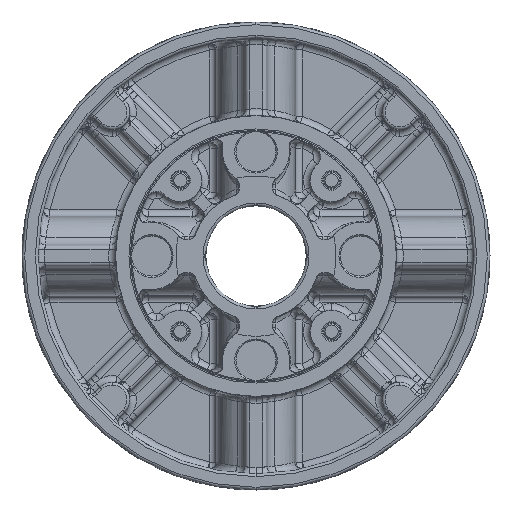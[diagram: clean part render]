
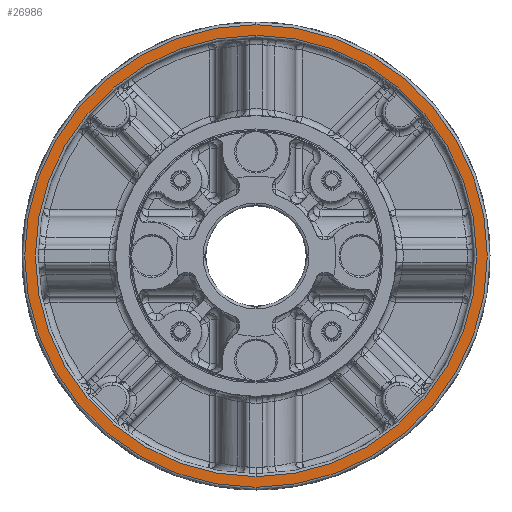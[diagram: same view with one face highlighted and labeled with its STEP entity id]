
A CAD part, left-side view. The second image highlights one B-rep face of the part: STEP entity #26986.
In plain terms, the highlighted planar face has unit normal (-1, 0, 0).
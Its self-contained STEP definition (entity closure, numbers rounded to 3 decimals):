
#247 = DIRECTION ( 'NONE',  ( 1., 0., 0. ) ) ;
#2159 = CARTESIAN_POINT ( 'NONE',  ( -90., 173., 0. ) ) ;
#3279 = ORIENTED_EDGE ( 'NONE', *, *, #16034, .T. ) ;
#3451 = CIRCLE ( 'NONE', #25942, 173. ) ;
#7298 = PLANE ( 'NONE',  #45255 ) ;
#10331 = DIRECTION ( 'NONE',  ( 1., 0., 0. ) ) ;
#12405 = FACE_OUTER_BOUND ( 'NONE', #50507, .T. ) ;
#12872 = DIRECTION ( 'NONE',  ( 1., 0., 0. ) ) ;
#13650 = CIRCLE ( 'NONE', #62706, 173. ) ;
#14402 = DIRECTION ( 'NONE',  ( 1., 0., 0. ) ) ;
#16034 = EDGE_CURVE ( 'NONE', #57673, #47717, #46853, .T. ) ;
#19812 = DIRECTION ( 'NONE',  ( 0., 0., -1. ) ) ;
#21860 = DIRECTION ( 'NONE',  ( 0., 0., -1. ) ) ;
#22553 = ORIENTED_EDGE ( 'NONE', *, *, #55288, .F. ) ;
#25942 = AXIS2_PLACEMENT_3D ( 'NONE', #37225, #12872, #21860 ) ;
#26986 = ADVANCED_FACE ( 'NONE', ( #32276, #12405 ), #7298, .T. ) ;
#29877 = EDGE_CURVE ( 'NONE', #47717, #57673, #35083, .T. ) ;
#30764 = CARTESIAN_POINT ( 'NONE',  ( -90., 0., 173. ) ) ;
#31970 = VERTEX_POINT ( 'NONE', #46333 ) ;
#32276 = FACE_BOUND ( 'NONE', #32974, .T. ) ;
#32974 = EDGE_LOOP ( 'NONE', ( #52711, #3279 ) ) ;
#33018 = AXIS2_PLACEMENT_3D ( 'NONE', #43593, #14402, #48398 ) ;
#34066 = CARTESIAN_POINT ( 'NONE',  ( -90., 0., 0. ) ) ;
#34948 = CARTESIAN_POINT ( 'NONE',  ( -90., 0., 165. ) ) ;
#35083 = CIRCLE ( 'NONE', #33018, 165. ) ;
#35723 = AXIS2_PLACEMENT_3D ( 'NONE', #34066, #10331, #43709 ) ;
#36468 = DIRECTION ( 'NONE',  ( 0., 0., 1. ) ) ;
#37225 = CARTESIAN_POINT ( 'NONE',  ( -90., 0., 0. ) ) ;
#37395 = CARTESIAN_POINT ( 'NONE',  ( -90., 0., -165. ) ) ;
#43593 = CARTESIAN_POINT ( 'NONE',  ( -90., 0., 0. ) ) ;
#43709 = DIRECTION ( 'NONE',  ( 0., 0., -1. ) ) ;
#45255 = AXIS2_PLACEMENT_3D ( 'NONE', #2159, #46399, #36468 ) ;
#46333 = CARTESIAN_POINT ( 'NONE',  ( -90., 0., -173. ) ) ;
#46399 = DIRECTION ( 'NONE',  ( -1., 0., 0. ) ) ;
#46853 = CIRCLE ( 'NONE', #35723, 165. ) ;
#47717 = VERTEX_POINT ( 'NONE', #37395 ) ;
#48398 = DIRECTION ( 'NONE',  ( 0., 0., -1. ) ) ;
#50507 = EDGE_LOOP ( 'NONE', ( #60051, #22553 ) ) ;
#52711 = ORIENTED_EDGE ( 'NONE', *, *, #29877, .T. ) ;
#55288 = EDGE_CURVE ( 'NONE', #59827, #31970, #13650, .T. ) ;
#57592 = EDGE_CURVE ( 'NONE', #31970, #59827, #3451, .T. ) ;
#57673 = VERTEX_POINT ( 'NONE', #34948 ) ;
#59827 = VERTEX_POINT ( 'NONE', #30764 ) ;
#59895 = CARTESIAN_POINT ( 'NONE',  ( -90., 0., 0. ) ) ;
#60051 = ORIENTED_EDGE ( 'NONE', *, *, #57592, .F. ) ;
#62706 = AXIS2_PLACEMENT_3D ( 'NONE', #59895, #247, #19812 ) ;
